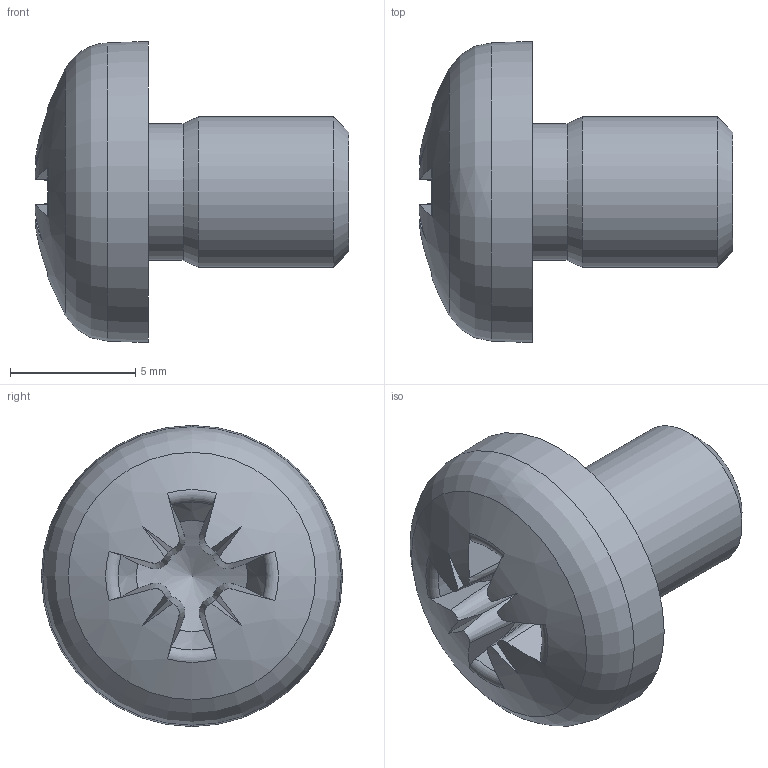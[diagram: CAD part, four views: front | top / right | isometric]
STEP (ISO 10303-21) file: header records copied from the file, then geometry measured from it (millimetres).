
FILE_DESCRIPTION(/* description */ ('Vis à tête cylindrique à empreinte cruciforme de type Z - Produit de classe A'),/* implementation_level */ '2;1');
FILE_NAME(/* name */ 'H:\5-Olympiades\47e\Sujet Régional\Etau\A donner aux candidats\2-Après-Midi\09-ISO 7045 - M6 x 8 - 4.8 - Z.stp',/* time_stamp */ '2022-03-30T08:42:16+02:00',/* author */ ('Philippe'),/* organization */ (''),/* preprocessor_version */ 'ST-DEVELOPER v18',/* originating_system */ 'Autodesk Inventor 2020',/* authorisation */ '');
FILE_SCHEMA (('AUTOMOTIVE_DESIGN { 1 0 10303 214 3 1 1 }'));
Length unit declared in the file: millimetre
Products named in the file (1): ISO 7045 - M6 x 8 - 4.8 - Z
Bounding box: 12.51 x 12 x 12 mm (x, y, z)
Volume: 586.5 mm3; surface area: 520.4 mm2
Topology: 1 solids, 1 shells, 42 faces, 117 edges, 78 vertices
Faces by surface type: plane 18, cone 16, torus 5, cylinder 2, sphere 1
Full cylindrical faces by diameter (mm): 5.459 x1, 6 x1
Entity records: 1625 total; most frequent: CARTESIAN_POINT 557, ORIENTED_EDGE 232, DIRECTION 212, EDGE_CURVE 116, AXIS2_PLACEMENT_3D 97, VERTEX_POINT 78, CIRCLE 46, EDGE_LOOP 44
